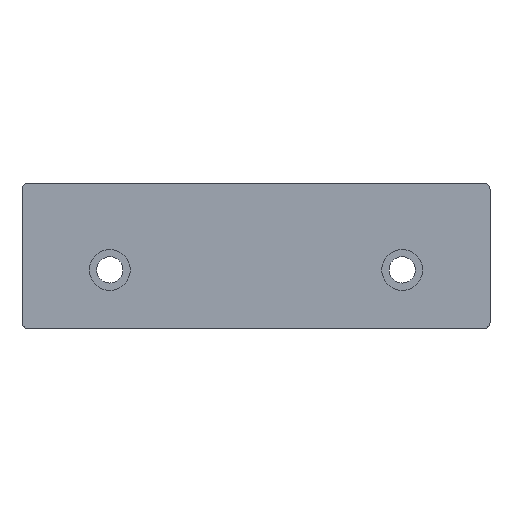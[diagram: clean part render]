
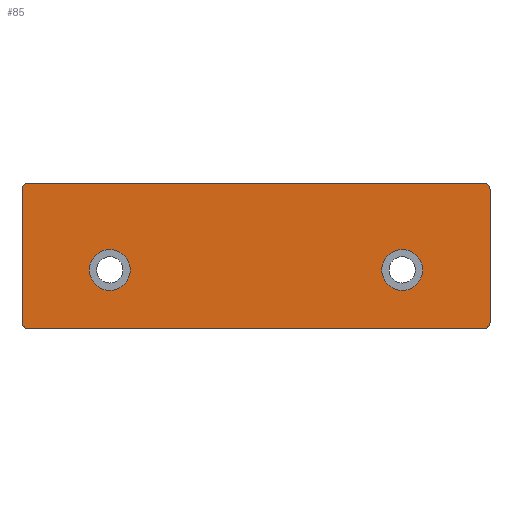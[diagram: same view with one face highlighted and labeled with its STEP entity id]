
A CAD part, top view. The second image highlights one B-rep face of the part: STEP entity #85.
In plain terms, the highlighted planar face has unit normal (0, 0, 1).
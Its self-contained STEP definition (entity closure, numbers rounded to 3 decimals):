
#85=ADVANCED_FACE('NONE',(#166,#167,#168),#169,.F.);
#166=FACE_OUTER_BOUND('',#250,.T.);
#167=FACE_BOUND('',#251,.T.);
#168=FACE_BOUND('',#252,.T.);
#169=PLANE('',#253);
#250=EDGE_LOOP('',(#352,#353,#354,#355,#356,#357,#358,#359));
#251=EDGE_LOOP('',(#360,#361));
#252=EDGE_LOOP('',(#362,#363));
#253=AXIS2_PLACEMENT_3D('',#364,#365,#366);
#352=ORIENTED_EDGE('',*,*,#518,.T.);
#353=ORIENTED_EDGE('',*,*,#519,.T.);
#354=ORIENTED_EDGE('',*,*,#520,.T.);
#355=ORIENTED_EDGE('',*,*,#521,.T.);
#356=ORIENTED_EDGE('',*,*,#522,.T.);
#357=ORIENTED_EDGE('',*,*,#523,.T.);
#358=ORIENTED_EDGE('',*,*,#524,.T.);
#359=ORIENTED_EDGE('',*,*,#525,.T.);
#360=ORIENTED_EDGE('',*,*,#526,.F.);
#361=ORIENTED_EDGE('',*,*,#494,.F.);
#362=ORIENTED_EDGE('',*,*,#527,.F.);
#363=ORIENTED_EDGE('',*,*,#499,.F.);
#364=CARTESIAN_POINT('',(80.0,24.75,16.0));
#365=DIRECTION('',(0.0,0.0,-1.0));
#366=DIRECTION('',(0.0,-1.0,0.0));
#494=EDGE_CURVE('NONE',#568,#570,#571,.T.);
#499=EDGE_CURVE('NONE',#577,#579,#580,.T.);
#518=EDGE_CURVE('NONE',#607,#608,#609,.T.);
#519=EDGE_CURVE('NONE',#608,#610,#611,.T.);
#520=EDGE_CURVE('NONE',#610,#612,#613,.T.);
#521=EDGE_CURVE('NONE',#612,#614,#615,.T.);
#522=EDGE_CURVE('NONE',#614,#616,#617,.T.);
#523=EDGE_CURVE('NONE',#616,#618,#619,.T.);
#524=EDGE_CURVE('NONE',#618,#620,#621,.T.);
#525=EDGE_CURVE('NONE',#620,#607,#622,.T.);
#526=EDGE_CURVE('NONE',#570,#568,#623,.T.);
#527=EDGE_CURVE('NONE',#579,#577,#624,.T.);
#568=VERTEX_POINT('NONE',#675);
#570=VERTEX_POINT('NONE',#678);
#571=CIRCLE('',#679,7.0);
#577=VERTEX_POINT('NONE',#686);
#579=VERTEX_POINT('NONE',#689);
#580=CIRCLE('',#690,7.0);
#607=VERTEX_POINT('NONE',#722);
#608=VERTEX_POINT('NONE',#723);
#609=LINE('',#724,#725);
#610=VERTEX_POINT('NONE',#726);
#611=CIRCLE('',#727,2.0);
#612=VERTEX_POINT('NONE',#728);
#613=LINE('',#729,#730);
#614=VERTEX_POINT('NONE',#731);
#615=CIRCLE('',#732,2.0);
#616=VERTEX_POINT('NONE',#733);
#617=LINE('',#734,#735);
#618=VERTEX_POINT('NONE',#736);
#619=CIRCLE('',#737,2.0);
#620=VERTEX_POINT('NONE',#738);
#621=LINE('',#739,#740);
#622=CIRCLE('',#741,2.0);
#623=CIRCLE('',#742,7.0);
#624=CIRCLE('',#743,7.0);
#675=CARTESIAN_POINT('',(-57.0,-4.75,16.0));
#678=CARTESIAN_POINT('',(-43.0,-4.75,16.0));
#679=AXIS2_PLACEMENT_3D('',#829,#830,#831);
#686=CARTESIAN_POINT('',(43.0,-4.75,16.0));
#689=CARTESIAN_POINT('',(57.0,-4.75,16.0));
#690=AXIS2_PLACEMENT_3D('',#837,#838,#839);
#722=CARTESIAN_POINT('',(-80.0,22.75,16.0));
#723=CARTESIAN_POINT('',(-80.0,-22.75,16.0));
#724=CARTESIAN_POINT('',(-80.0,-24.75,16.0));
#725=VECTOR('',#869,1000.0);
#726=CARTESIAN_POINT('',(-78.0,-24.75,16.0));
#727=AXIS2_PLACEMENT_3D('',#870,#871,#872);
#728=CARTESIAN_POINT('',(78.0,-24.75,16.0));
#729=CARTESIAN_POINT('',(-80.0,-24.75,16.0));
#730=VECTOR('',#873,1000.0);
#731=CARTESIAN_POINT('',(80.0,-22.75,16.0));
#732=AXIS2_PLACEMENT_3D('',#874,#875,#876);
#733=CARTESIAN_POINT('',(80.0,22.75,16.0));
#734=CARTESIAN_POINT('',(80.0,-24.75,16.0));
#735=VECTOR('',#877,1000.0);
#736=CARTESIAN_POINT('',(78.0,24.75,16.0));
#737=AXIS2_PLACEMENT_3D('',#878,#879,#880);
#738=CARTESIAN_POINT('',(-78.0,24.75,16.0));
#739=CARTESIAN_POINT('',(-80.0,24.75,16.0));
#740=VECTOR('',#881,1000.0);
#741=AXIS2_PLACEMENT_3D('',#882,#883,#884);
#742=AXIS2_PLACEMENT_3D('',#885,#886,#887);
#743=AXIS2_PLACEMENT_3D('',#888,#889,#890);
#829=CARTESIAN_POINT('',(-50.0,-4.75,16.0));
#830=DIRECTION('',(0.0,0.0,1.0));
#831=DIRECTION('',(1.0,0.0,0.0));
#837=CARTESIAN_POINT('',(50.0,-4.75,16.0));
#838=DIRECTION('',(0.0,0.0,1.0));
#839=DIRECTION('',(1.0,0.0,0.0));
#869=DIRECTION('',(-0.0,-1.0,-0.0));
#870=CARTESIAN_POINT('',(-78.0,-22.75,16.0));
#871=DIRECTION('',(0.0,0.0,1.0));
#872=DIRECTION('',(-1.0,0.0,0.0));
#873=DIRECTION('',(1.0,0.0,0.0));
#874=CARTESIAN_POINT('',(78.0,-22.75,16.0));
#875=DIRECTION('',(0.0,0.0,1.0));
#876=DIRECTION('',(-1.0,0.0,0.0));
#877=DIRECTION('',(0.0,1.0,0.0));
#878=CARTESIAN_POINT('',(78.0,22.75,16.0));
#879=DIRECTION('',(0.0,0.0,1.0));
#880=DIRECTION('',(-1.0,0.0,0.0));
#881=DIRECTION('',(-1.0,0.,-0.0));
#882=CARTESIAN_POINT('',(-78.0,22.75,16.0));
#883=DIRECTION('',(0.0,0.0,1.0));
#884=DIRECTION('',(-1.0,0.0,0.0));
#885=CARTESIAN_POINT('',(-50.0,-4.75,16.0));
#886=DIRECTION('',(0.0,0.0,1.0));
#887=DIRECTION('',(1.0,0.0,0.0));
#888=CARTESIAN_POINT('',(50.0,-4.75,16.0));
#889=DIRECTION('',(0.0,0.0,1.0));
#890=DIRECTION('',(1.0,0.0,0.0));
